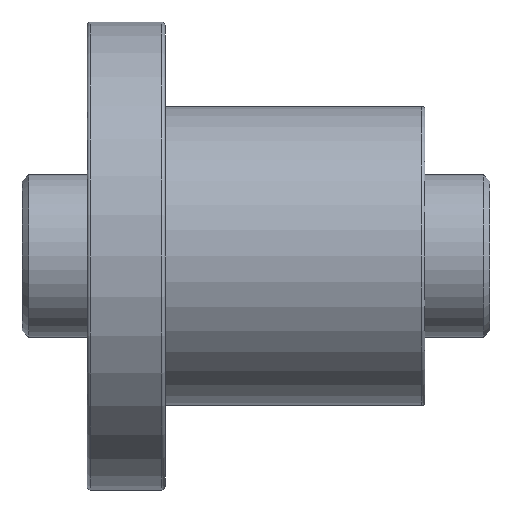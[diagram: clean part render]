
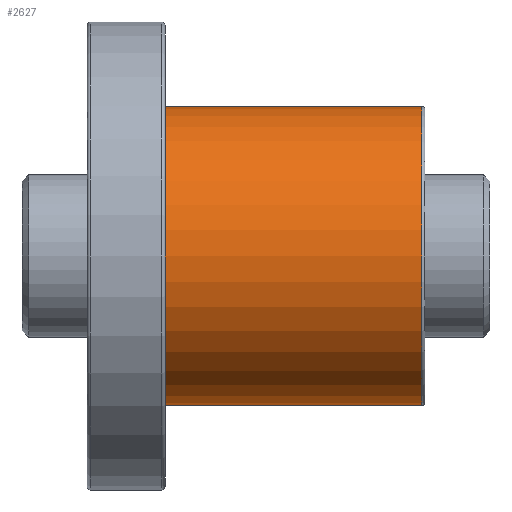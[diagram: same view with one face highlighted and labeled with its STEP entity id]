
A CAD part, front view. The second image highlights one B-rep face of the part: STEP entity #2627.
In plain terms, the highlighted cylindrical face has radius 23 mm (diameter 46 mm), a partial arc.
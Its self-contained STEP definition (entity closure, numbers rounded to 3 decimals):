
#2 = DIRECTION ( 'NONE',  ( 0., 0., -1. ) ) ;
#42 = VECTOR ( 'NONE', #3926, 1000. ) ;
#126 = LINE ( 'NONE', #239, #3165 ) ;
#163 = CYLINDRICAL_SURFACE ( 'NONE', #361, 23. ) ;
#164 = VERTEX_POINT ( 'NONE', #2317 ) ;
#239 = CARTESIAN_POINT ( 'NONE',  ( 45., 0., 23. ) ) ;
#254 = DIRECTION ( 'NONE',  ( -1., 0., 0. ) ) ;
#256 = DIRECTION ( 'NONE',  ( -1., 0., 0. ) ) ;
#361 = AXIS2_PLACEMENT_3D ( 'NONE', #2223, #254, #3469 ) ;
#562 = EDGE_LOOP ( 'NONE', ( #3048, #3031, #1825, #2556 ) ) ;
#613 = VERTEX_POINT ( 'NONE', #1978 ) ;
#702 = EDGE_CURVE ( 'NONE', #1545, #164, #2714, .T. ) ;
#707 = AXIS2_PLACEMENT_3D ( 'NONE', #2493, #1899, #2 ) ;
#759 = FACE_OUTER_BOUND ( 'NONE', #562, .T. ) ;
#1044 = CARTESIAN_POINT ( 'NONE',  ( 12., 0., 23. ) ) ;
#1214 = DIRECTION ( 'NONE',  ( 0., 0., -1. ) ) ;
#1234 = DIRECTION ( 'NONE',  ( -1., 0., 0. ) ) ;
#1516 = EDGE_CURVE ( 'NONE', #613, #2326, #126, .T. ) ;
#1545 = VERTEX_POINT ( 'NONE', #2065 ) ;
#1580 = AXIS2_PLACEMENT_3D ( 'NONE', #4104, #1234, #1214 ) ;
#1825 = ORIENTED_EDGE ( 'NONE', *, *, #1516, .T. ) ;
#1899 = DIRECTION ( 'NONE',  ( 1., 0., 0. ) ) ;
#1978 = CARTESIAN_POINT ( 'NONE',  ( 51.5, 0., 23. ) ) ;
#2065 = CARTESIAN_POINT ( 'NONE',  ( 51.5, 0., -23. ) ) ;
#2219 = CIRCLE ( 'NONE', #707, 23. ) ;
#2223 = CARTESIAN_POINT ( 'NONE',  ( 45., 0., 0. ) ) ;
#2317 = CARTESIAN_POINT ( 'NONE',  ( 12., 0., -23. ) ) ;
#2326 = VERTEX_POINT ( 'NONE', #1044 ) ;
#2349 = CARTESIAN_POINT ( 'NONE',  ( 45., 0., -23. ) ) ;
#2471 = CIRCLE ( 'NONE', #1580, 23. ) ;
#2493 = CARTESIAN_POINT ( 'NONE',  ( 12., 0., 0. ) ) ;
#2556 = ORIENTED_EDGE ( 'NONE', *, *, #3007, .T. ) ;
#2558 = EDGE_CURVE ( 'NONE', #1545, #613, #2471, .T. ) ;
#2627 = ADVANCED_FACE ( 'NONE', ( #759 ), #163, .T. ) ;
#2714 = LINE ( 'NONE', #2349, #42 ) ;
#3007 = EDGE_CURVE ( 'NONE', #2326, #164, #2219, .T. ) ;
#3031 = ORIENTED_EDGE ( 'NONE', *, *, #2558, .T. ) ;
#3048 = ORIENTED_EDGE ( 'NONE', *, *, #702, .F. ) ;
#3165 = VECTOR ( 'NONE', #256, 1000. ) ;
#3469 = DIRECTION ( 'NONE',  ( 0., 0., 1. ) ) ;
#3926 = DIRECTION ( 'NONE',  ( -1., 0., 0. ) ) ;
#4104 = CARTESIAN_POINT ( 'NONE',  ( 51.5, 0., 0. ) ) ;
